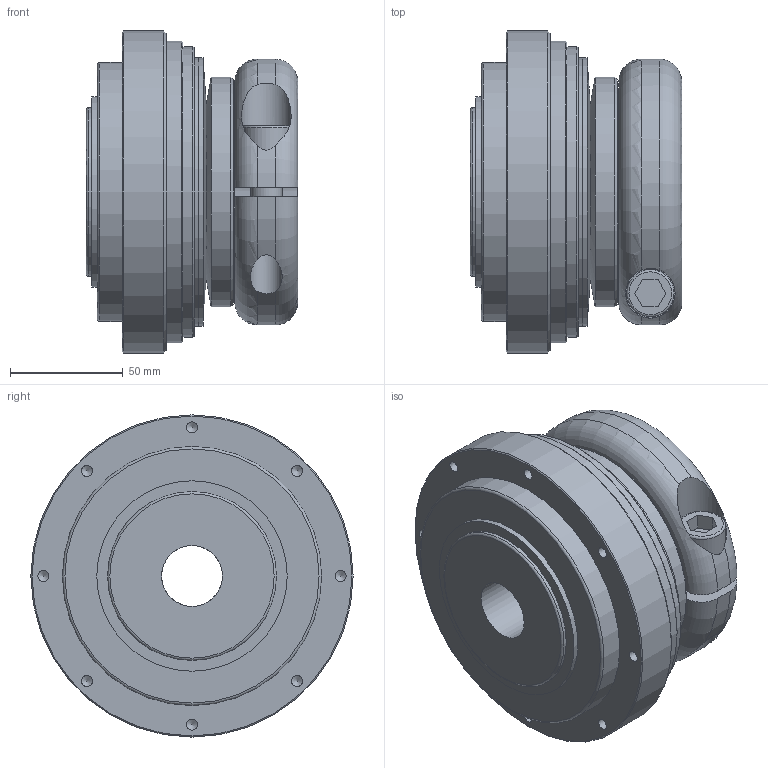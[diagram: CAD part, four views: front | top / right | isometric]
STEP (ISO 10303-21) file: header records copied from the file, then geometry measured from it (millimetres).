
FILE_DESCRIPTION(/* description */ ('Unknown'),/* implementation_level */ '2;1');
FILE_NAME(/* name */ 'SKVA-K 900',/* time_stamp */ '2025-02-12T11:36:10+01:00',/* author */ ('Unknown'),/* organization */ ('Unknown'),/* preprocessor_version */ 'ST-DEVELOPER v18.102',/* originating_system */ 'Solid Edge',/* authorisation */ 'Unknown');
FILE_SCHEMA (('AUTOMOTIVE_DESIGN {1 0 10303 214 3 1 1}'));
Length unit declared in the file: millimetre
Products named in the file (1): SKVA-K 900
Bounding box: 94 x 143 x 143 mm (x, y, z)
Volume: 993665.7 mm3; surface area: 97692.1 mm2
Topology: 1 solids, 2 shells, 82 faces, 188 edges, 119 vertices
Faces by surface type: cylinder 31, plane 26, cone 20, torus 5
Full cylindrical faces by diameter (mm): 4.917 x16, 14 x3, 21 x1, 22 x1, 27 x1, 74.912 x1, 84.5 x1, 102 x1, 115 x1, 119 x2, 129 x1, 134 x1, 143 x1
Entity records: 2558 total; most frequent: CARTESIAN_POINT 399, DIRECTION 340, ORIENTED_EDGE 228, AXIS2_PLACEMENT_3D 157, FACE_BOUND 154, EDGE_LOOP 146, EDGE_CURVE 114, VERTEX_POINT 104
